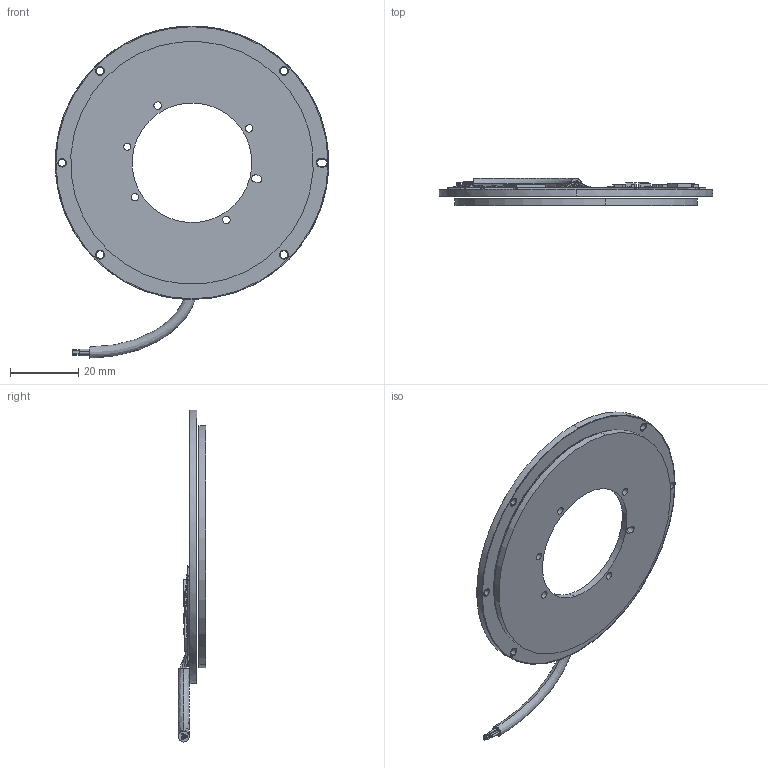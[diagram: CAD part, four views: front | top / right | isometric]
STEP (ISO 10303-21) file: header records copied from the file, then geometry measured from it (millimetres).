
FILE_DESCRIPTION (( 'STEP AP214' ), '1' );
FILE_NAME ('VLP-80.STEP', '2025-03-23T14:43:34', ( '' ), ( '' ), 'SwSTEP 2.0', 'SolidWorks 2022', '' );
FILE_SCHEMA (( 'AUTOMOTIVE_DESIGN' ));
Length unit declared in the file: millimetre
Products named in the file (5): PB-00080; VLP-QR cable; PB-00456-00; PB-00081; VLP-80
Assembly tree (4 placements, depth 2):
  VLP-80
    PB-00080
    PB-00456-00
    PB-00081
    VLP-QR cable
Bounding box: 80 x 8.01 x 97.1 mm (x, y, z)
Volume: 13996.2 mm3; surface area: 17841.5 mm2
Topology: 109 solids, 109 shells, 4776 faces, 12212 edges, 8462 vertices
Faces by surface type: plane 3011, cylinder 1743, bspline 22
Entity records: 210623 total; most frequent: CARTESIAN_POINT 39241, DIRECTION 24784, ORIENTED_EDGE 24424, EDGE_CURVE 12212, VERTEX_POINT 8462, AXIS2_PLACEMENT_3D 8348, LINE 8088, VECTOR 8088
